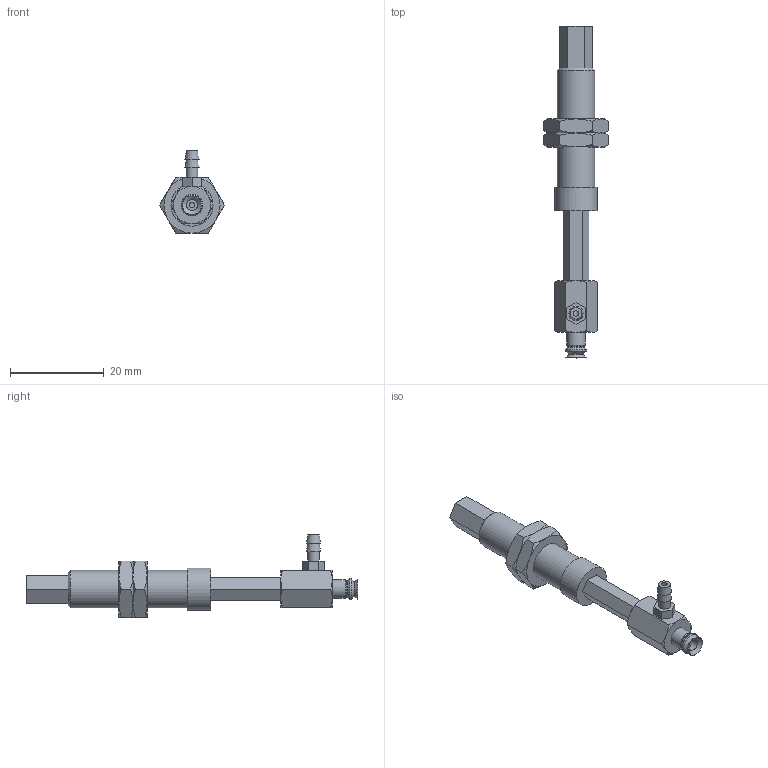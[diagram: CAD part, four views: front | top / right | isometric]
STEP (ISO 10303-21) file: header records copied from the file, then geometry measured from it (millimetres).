
FILE_DESCRIPTION(('STEP AP203'),'1');
FILE_NAME('-T.stp','2025-04-24T05:23:06',(' '),(' '),'Spatial InterOp 3D',' ',' ');
FILE_SCHEMA(('CONFIG_CONTROL_DESIGN'));
Length unit declared in the file: millimetre
Products named in the file (7): BNABPJYH-4-15-※-T; CONNECTOR-H-2A-15; Nut-2A-15-h; NAPFTH-2A-15-FBODY; NAPFTH-2A-15-MBODY; BPJG-4-※; T (2)
Assembly tree (7 placements, depth 2):
  BNABPJYH-4-15-※-T
    CONNECTOR-H-2A-15
    Nut-2A-15-h  x2
    NAPFTH-2A-15-FBODY
    NAPFTH-2A-15-MBODY
    BPJG-4-※
    T (2)
Bounding box: 13.86 x 71 x 17.6 mm (x, y, z)
Volume: 3298.1 mm3; surface area: 4077.4 mm2
Topology: 7 solids, 7 shells, 158 faces, 343 edges, 210 vertices
Faces by surface type: plane 75, cone 57, cylinder 17, torus 9
Full cylindrical faces by diameter (mm): 1.2 x2, 2 x2, 2.4 x1, 2.459 x2, 2.5 x1, 3 x4, 4 x1, 7.188 x2, 8 x1, 9 x1
Entity records: 3962 total; most frequent: CARTESIAN_POINT 901, DIRECTION 560, ORIENTED_EDGE 486, EDGE_CURVE 243, AXIS2_PLACEMENT_3D 228, EDGE_LOOP 200, VERTEX_POINT 173, FACE_OUTER_BOUND 160
